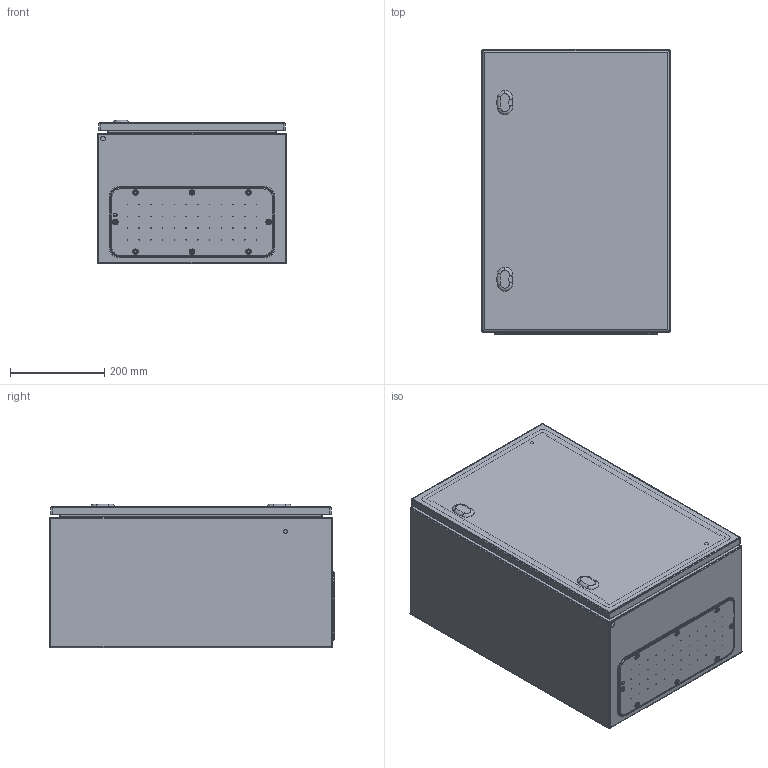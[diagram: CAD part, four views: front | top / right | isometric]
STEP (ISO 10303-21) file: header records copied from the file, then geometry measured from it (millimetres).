
FILE_DESCRIPTION (( 'STEP AP203' ), '1' );
FILE_NAME ('0400x0600x0300 dx.step', '2021-09-07T06:40:44', ( '' ), ( '' ), 'SwSTEP 2.0', 'SolidWorks 2021', '' );
FILE_SCHEMA (( 'CONFIG_CONTROL_DESIGN' ));
Length unit declared in the file: millimetre
Products named in the file (7): AR_ECOR_chiusura_std_STD; AR_ECOR_montaggio_porta_singola_0400x0600; 0400x0600x0300 dx; AR_ECOR_Piastra_09; AR_ECOR_involucro_0400x0600x0300; AR_ECOR_flangia IC_04; AR_ECOR_porta_singola_0400x0600
Assembly tree (7 placements, depth 3):
  0400x0600x0300 dx
    AR_ECOR_involucro_0400x0600x0300
    AR_ECOR_montaggio_porta_singola_0400x0600
      AR_ECOR_porta_singola_0400x0600
      AR_ECOR_chiusura_std_STD  x2
    AR_ECOR_flangia IC_04
    AR_ECOR_Piastra_09
Bounding box: 400 x 604 x 305 mm (x, y, z)
Volume: 2276375 mm3; surface area: 2760822.5 mm2
Topology: 6 solids, 6 shells, 769 faces, 1893 edges, 1194 vertices
Faces by surface type: cylinder 391, plane 228, cone 60, torus 46, bspline 28, sphere 16
Entity records: 24203 total; most frequent: CARTESIAN_POINT 4977, DIRECTION 4119, ORIENTED_EDGE 3668, EDGE_CURVE 1834, AXIS2_PLACEMENT_3D 1645, VERTEX_POINT 1168, EDGE_LOOP 988, CIRCLE 909
